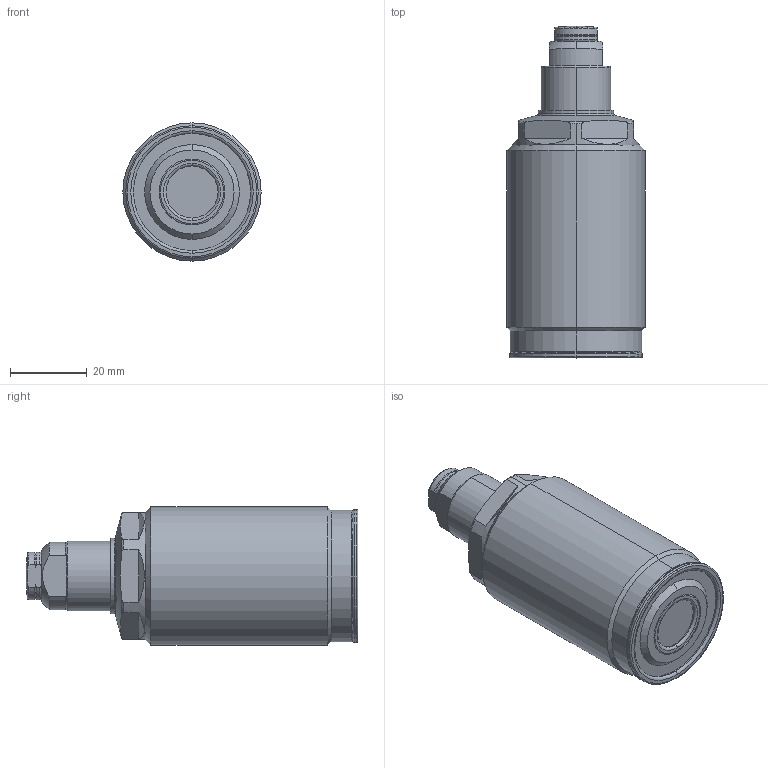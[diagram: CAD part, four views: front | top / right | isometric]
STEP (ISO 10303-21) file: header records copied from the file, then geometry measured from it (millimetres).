
FILE_DESCRIPTION(/* description */ (''),/* implementation_level */ '2;1');
FILE_NAME(/* name */ 'GSS04.stp',/* time_stamp */ '2025-01-05T13:19:04+08:00',/* author */ (''),/* organization */ (''),/* preprocessor_version */ 'ST-DEVELOPER v16.7',/* originating_system */ 'SIEMENS PLM Software NX 12.0',/* authorisation */ '');
FILE_SCHEMA (('AUTOMOTIVE_DESIGN { 1 0 10303 214 3 1 1 1 }'));
Length unit declared in the file: millimetre
Products named in the file (7): AS0104795; TNC0403_ContactBolt_M103057; GSS04-04; GSS04-03; GSS04-02; GSS04-01; TNC1003-x-E_step
Assembly tree (6 placements, depth 3):
  TNC1003-x-E_step
    GSS04-01
      TNC0403_ContactBolt_M103057
      AS0104795
    GSS04-02
    GSS04-03
    GSS04-04
Bounding box: 36 x 86.4 x 36 mm (x, y, z)
Volume: 62572.5 mm3; surface area: 12619.1 mm2
Topology: 5 solids, 5 shells, 149 faces, 334 edges, 203 vertices
Faces by surface type: torus 45, cylinder 41, plane 35, cone 26, sphere 2
Entity records: 4663 total; most frequent: CARTESIAN_POINT 1105, DIRECTION 797, ORIENTED_EDGE 668, AXIS2_PLACEMENT_3D 353, EDGE_CURVE 334, VERTEX_POINT 203, CIRCLE 197, EDGE_LOOP 163
